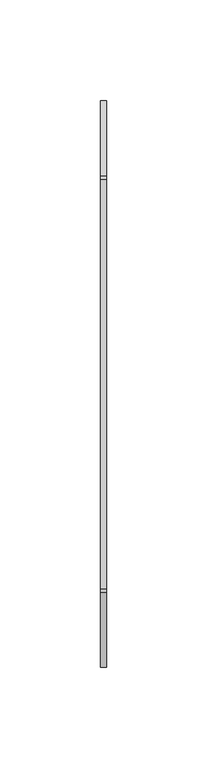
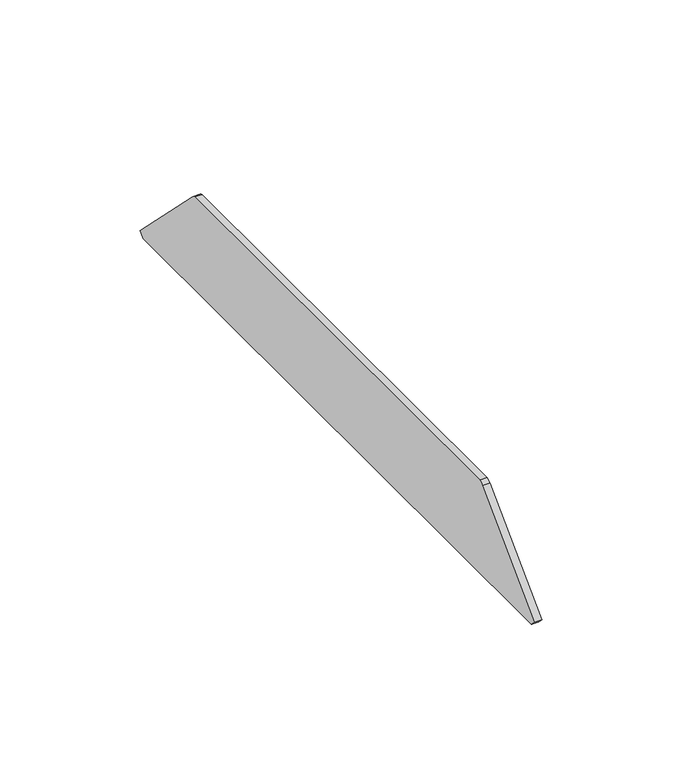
"""IFC4 building model written with IfcOpenShell, lengths in millimetres: cable carrier fitting geometry, Electrical_Installation_Hager_End-Piece : Electrical_Installation_Hager_End-Piece."""

import ifcopenshell
import ifcopenshell.guid

model = None  # the IFC model being written
_history = None  # IfcOwnerHistory: only IFC2X3 demands one
_inside = {}  # id of a spatial element -> (the spatial element, [elements in it])
_under = {}  # id of a project, library or spatial element -> (it, [spatial elements below it])
_declared = {}  # id of a project -> (the project, [libraries it declares])
_typed = {}  # id of a type object -> (the type object, [elements of that type])
_made_of = {}  # id of a material, layer set ... -> (it, [elements and type objects made of it])


def new_model(schema):
    """Start an empty IFC model of exactly this schema.

    Asked for "IFC4X3", IfcOpenShell would pick the latest addendum, in which some entities
    have other attributes; the version numbers below select the first issue.
    IFC2X3 requires an IfcOwnerHistory on every rooted entity: one is made here for all.
    """
    global model, _history
    if schema == "IFC4X3":
        model = ifcopenshell.file(schema_version=(4, 3, 0, 0))
    else:
        model = ifcopenshell.file(schema=schema)
    _inside.clear()
    _under.clear()
    _declared.clear()
    _typed.clear()
    _made_of.clear()
    _history = None
    if model.schema == "IFC2X3":
        org = make("IfcOrganization", Name="unknown")
        user = make(
            "IfcPersonAndOrganization",
            ThePerson=make("IfcPerson", FamilyName="unknown"),
            TheOrganization=org,
        )
        app = make(
            "IfcApplication",
            ApplicationDeveloper=org,
            Version="unknown",
            ApplicationFullName="unknown",
            ApplicationIdentifier="unknown",
        )
        _history = make(
            "IfcOwnerHistory",
            OwningUser=user,
            OwningApplication=app,
            ChangeAction="ADDED",
            CreationDate=0,
        )
    return model


def make(cls, **values):
    """One entity of the class cls with the attributes given. An attribute that is None is left unset."""
    return model.create_entity(
        cls, **{name: value for name, value in values.items() if value is not None}
    )


def rooted(cls, **values):
    """An entity with a GlobalId (a new one), such as an element, a storey or a relation."""
    return make(cls, GlobalId=ifcopenshell.guid.new(), OwnerHistory=_history, **values)


def si_unit(unit_type, name, prefix=None):
    """IfcSIUnit, for example si_unit("LENGTHUNIT", "METRE", prefix="MILLI")."""
    return make("IfcSIUnit", UnitType=unit_type, Prefix=prefix, Name=name)


def assignment(units):
    """IfcUnitAssignment: the units of a project."""
    return None if units is None else make("IfcUnitAssignment", Units=units)


def point(xyz):
    """IfcCartesianPoint."""
    return None if xyz is None else make("IfcCartesianPoint", Coordinates=xyz)


def direction(xyz):
    """IfcDirection."""
    return None if xyz is None else make("IfcDirection", DirectionRatios=xyz)


def frame(location, z_axis=None, x_axis=None):
    """IfcAxis2Placement3D, a coordinate frame: its origin and axes. An axis left out is left unset."""
    return make(
        "IfcAxis2Placement3D",
        Location=point(location),
        Axis=direction(z_axis),
        RefDirection=direction(x_axis),
    )


def frame_2d(location, x_axis=None):
    """IfcAxis2Placement2D, a coordinate frame in the plane: its origin and x axis."""
    return make(
        "IfcAxis2Placement2D", Location=point(location), RefDirection=direction(x_axis)
    )


def origin():
    """The frame at (0, 0, 0) with its axes left unset."""
    return frame((0.0, 0.0, 0.0))


def place(relative_to, where):
    """IfcLocalPlacement: puts the frame where relative to a parent placement (None: the world)."""
    return make(
        "IfcLocalPlacement", PlacementRelTo=relative_to, RelativePlacement=where
    )


def context(
    kind, dimensions, precision=None, world=None, true_north=None, identifier=None
):
    """IfcGeometricRepresentationContext, for example the 3D "Model" context."""
    return make(
        "IfcGeometricRepresentationContext",
        ContextIdentifier=identifier,
        ContextType=kind,
        CoordinateSpaceDimension=dimensions,
        Precision=precision,
        WorldCoordinateSystem=world,
        TrueNorth=true_north,
    )


def project(units=None, contexts=None):
    """IfcProject with its units and contexts."""
    return rooted(
        "IfcProject",
        Name="project",
        RepresentationContexts=contexts,
        UnitsInContext=assignment(units),
    )


def spatial(cls, under=None, at=None, **own):
    """A site, building, storey or space (cls), placed at a placement, below another one or the project."""
    s = rooted(cls, ObjectPlacement=at, **own)
    if under is not None:
        _under.setdefault(under.id(), (under, []))[1].append(s)
    return s


def polyline(points):
    """IfcPolyline through the points."""
    return make("IfcPolyline", Points=[point(p) for p in points])


def circle_curve(where, radius):
    """IfcCircle in the frame where."""
    return make("IfcCircle", Position=where, Radius=radius)


def trimmed(basis, trim1, trim2, sense, master):
    """IfcTrimmedCurve: the piece of a basis curve between two trims."""
    return make(
        "IfcTrimmedCurve",
        BasisCurve=basis,
        Trim1=trim1,
        Trim2=trim2,
        SenseAgreement=sense,
        MasterRepresentation=master,
    )


def segment(curve, same_sense, transition):
    """IfcCompositeCurveSegment."""
    return make(
        "IfcCompositeCurveSegment",
        Transition=transition,
        SameSense=same_sense,
        ParentCurve=curve,
    )


def composite_curve(segments, self_intersect=None):
    """IfcCompositeCurve: segments joined end to end."""
    return make("IfcCompositeCurve", Segments=segments, SelfIntersect=self_intersect)


def outline(outer, holes=None, kind="AREA"):
    """IfcArbitraryClosedProfileDef: a profile drawn as a closed curve; with holes, ...WithVoids."""
    if holes is None:
        return make("IfcArbitraryClosedProfileDef", ProfileType=kind, OuterCurve=outer)
    return make(
        "IfcArbitraryProfileDefWithVoids",
        ProfileType=kind,
        OuterCurve=outer,
        InnerCurves=holes,
    )


def extrude(swept, where, along, depth):
    """IfcExtrudedAreaSolid: the profile swept, set in the frame where, extruded along a direction by depth."""
    return make(
        "IfcExtrudedAreaSolid",
        SweptArea=swept,
        Position=where,
        ExtrudedDirection=direction(along),
        Depth=depth,
    )


def shape(context_of_items, identifier, shape_type, items):
    """IfcShapeRepresentation: the items that make up one representation, for example the "Body"."""
    return make(
        "IfcShapeRepresentation",
        ContextOfItems=context_of_items,
        RepresentationIdentifier=identifier,
        RepresentationType=shape_type,
        Items=items,
    )


def source(mapping_origin, context_of_items, identifier, shape_type, items):
    """IfcRepresentationMap: a shape defined once, which mapped items show again and again."""
    return make(
        "IfcRepresentationMap",
        MappingOrigin=mapping_origin,
        MappedRepresentation=shape(context_of_items, identifier, shape_type, items),
    )


def transform(
    local_origin,
    x_axis=None,
    y_axis=None,
    z_axis=None,
    scale=None,
    scale2=None,
    scale3=None,
    uniform=True,
):
    """IfcCartesianTransformationOperator3D, or its non-uniform kind. x_axis, y_axis, z_axis: its Axis1, 2, 3."""
    if uniform:
        return make(
            "IfcCartesianTransformationOperator3D",
            Axis1=direction(x_axis),
            Axis2=direction(y_axis),
            LocalOrigin=point(local_origin),
            Scale=scale,
            Axis3=direction(z_axis),
        )
    return make(
        "IfcCartesianTransformationOperator3DnonUniform",
        Axis1=direction(x_axis),
        Axis2=direction(y_axis),
        LocalOrigin=point(local_origin),
        Scale=scale,
        Axis3=direction(z_axis),
        Scale2=scale2,
        Scale3=scale3,
    )


def mapped(mapping_source, mapping_target):
    """IfcMappedItem: shows the shape of a source again, moved by a transform."""
    return make(
        "IfcMappedItem", MappingSource=mapping_source, MappingTarget=mapping_target
    )


def made_of(thing, what):
    """Note that an element or type object is made of a material, layer set ...; save() writes the relation."""
    if what is not None:
        _made_of.setdefault(what.id(), (what, []))[1].append(thing)
    return thing


def element(
    cls,
    number,
    at=None,
    inside=None,
    cuts=None,
    type_object=None,
    material=None,
    context=None,
    identifier="Body",
    shape_type=None,
    held_by="IfcProductDefinitionShape",
    body=None,
    shapes=None,
    **own,
):
    """One element of the class cls, such as IfcWall. Its Tag is "e" and its number.

    at: its placement. inside: the storey or other place that contains it. cuts: it is an
    opening in that element (IfcRelVoidsElement). A single representation is given by context,
    identifier, shape_type and body (its items); several are given by shapes. held_by: the class
    of the entity that holds the representations. save() writes the other relations.
    """
    e = rooted(cls, Tag="e%d" % number, ObjectPlacement=at, **own)
    if body is not None:
        shapes = [shape(context, identifier, shape_type, body)]
    if shapes is not None:
        e.Representation = make(held_by, Representations=shapes)
    if inside is not None:
        _inside.setdefault(inside.id(), (inside, []))[1].append(e)
    if cuts is not None:
        rooted(
            "IfcRelVoidsElement", RelatingBuildingElement=cuts, RelatedOpeningElement=e
        )
    if type_object is not None:
        _typed.setdefault(type_object.id(), (type_object, []))[1].append(e)
    return made_of(e, material)


def aggregate(whole, parts):
    """IfcRelAggregates: a whole, such as a stair, and the parts it consists of."""
    return rooted("IfcRelAggregates", RelatingObject=whole, RelatedObjects=parts)


def save(model, path):
    """Write the relations noted so far, then the file.

    IfcRelAggregates (storeys below a building ...), IfcRelContainedInSpatialStructure (elements
    in a storey), IfcRelDefinesByType, IfcRelAssociatesMaterial and IfcRelDeclares: one each for
    every whole, place, type object, material and project.
    """
    for whole, parts in _under.values():
        aggregate(whole, parts)
    for where, things in _inside.values():
        rooted(
            "IfcRelContainedInSpatialStructure",
            RelatedElements=things,
            RelatingStructure=where,
        )
    for kind, things in _typed.values():
        rooted("IfcRelDefinesByType", RelatedObjects=things, RelatingType=kind)
    for what, things in _made_of.values():
        rooted("IfcRelAssociatesMaterial", RelatedObjects=things, RelatingMaterial=what)
    for by, libraries in _declared.values():
        rooted("IfcRelDeclares", RelatingContext=by, RelatedDefinitions=libraries)
    model.write(path)


def cable_carrier_fitting_ba382e1f(model_context):
    return source(origin(), model_context, "Body", "SweptSolid", [
        extrude(outline(composite_curve([segment(polyline([(140.7213203, -17.8786797), (138.6, -20.0), (-138.6, -20.0), (-140.7213203, -17.8786797), (-103.5142136, 19.3284271)]), True, "CONTINUOUS"), segment(trimmed(circle_curve(frame_2d((-101.0170755, 17.4593317)), 3.1191692), [point((-103.5142136, 19.3284271))], [point((-101.7124549, 20.5))], False, "CARTESIAN"), True, "CONTINUOUS"), segment(polyline([(-101.7124549, 20.5), (101.7124549, 20.5)]), True, "CONTINUOUS"), segment(trimmed(circle_curve(frame_2d((100.5004738, 16.6648514)), 4.0220969), [point((101.7124549, 20.5))], [point((103.5142136, 19.3284271))], False, "CARTESIAN"), True, "CONTINUOUS"), segment(polyline([(103.5142136, 19.3284271), (140.7213203, -17.8786797)]), True, "CONTINUOUS")], self_intersect=False)), frame((0.0, 0.0, 0.0), z_axis=(1.0, 0.0, 0.0), x_axis=(0.0, 1.0, 0.0)), (0.0, 0.0, 1.0), 3.0),
    ])


if __name__ == "__main__":
    model = new_model("IFC4")
    model_context = context("Model", 3, world=origin())
    ifc_project = project(units=[si_unit("LENGTHUNIT", "METRE", prefix="MILLI")], contexts=[model_context])
    site = spatial("IfcSite", under=ifc_project)
    building = spatial("IfcBuilding", under=site)
    placement = place(None, origin())
    cable_carrier_fitting_shape = cable_carrier_fitting_ba382e1f(model_context)
    element("IfcCableCarrierFitting", 1, ObjectType="Electrical_Installation_Hager_End-Piece : Electrical_Installation_Hager_End-Piece", at=placement, inside=building, context=model_context, shape_type="MappedRepresentation", body=[
        mapped(cable_carrier_fitting_shape, transform((0.0, 0.0, 0.0), x_axis=(1.0, 0.0, 0.0), y_axis=(0.0, 1.0, 0.0), z_axis=(0.0, 0.0, 1.0))),
    ])
    save(model, "model.ifc")
